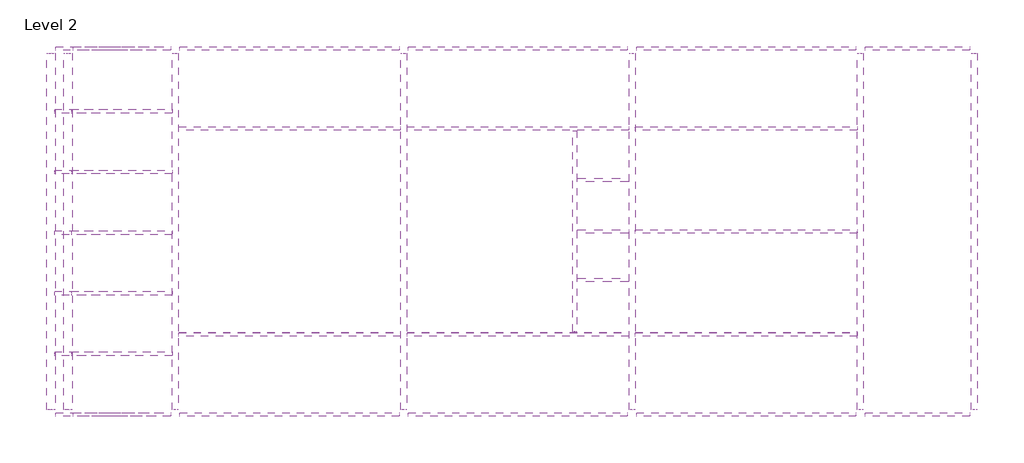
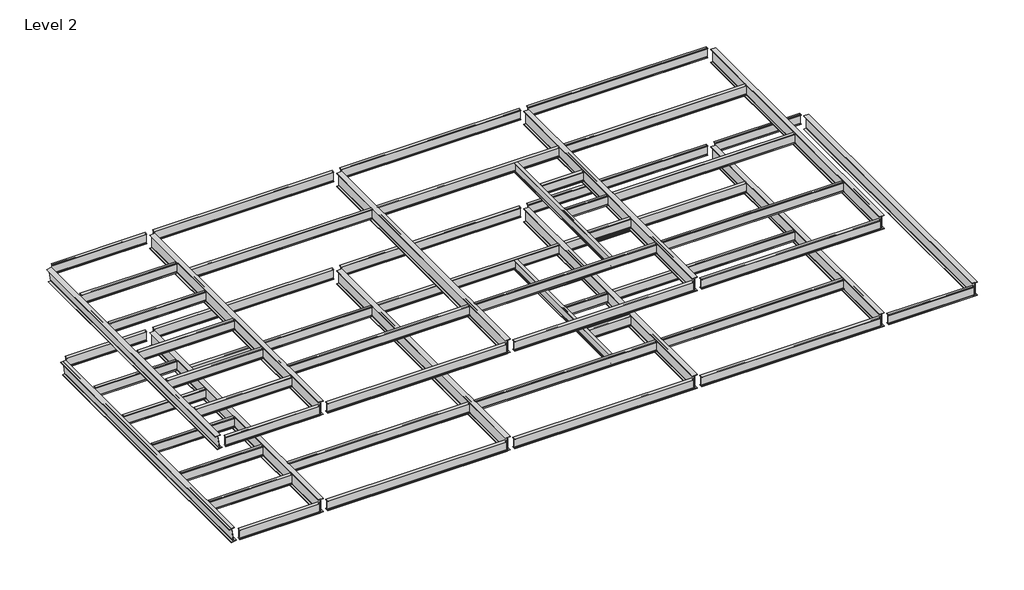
# One storey: 61 beams.
"""IFC4 building model written with IfcOpenShell, lengths in millimetres."""

from ifc_helpers import new_model, si_unit, origin, place, context, project, spatial, transform, mapped, element, save
from components import w_shapes_w21x57_a7133147, w_shapes_w21x57_78d4a217, w_shapes_w21x57_31511be1, w_shapes_w21x57_3eaecdaa, w_shapes_w21x57_65fae525, w_shapes_w21x57_e88e118e, w_shapes_w21x57_d6fd00a5, w_shapes_w21x57_f6bd02bd, w_shapes_w21x57_6fd070a8, w_shapes_w21x57_88b95638, w_shapes_w21x57_2a2f9a4d, w_shapes_w21x57_af6b2263, w_shapes_w21x57_8ccef679, w_shapes_w30x124_4285aa25, w_shapes_w30x124_25779b7b

model = new_model("IFC4")

# Units and contexts
model_context = context("Model", 3, world=origin())
ifc_project = project(units=[si_unit("LENGTHUNIT", "METRE", prefix="MILLI")], contexts=[model_context])

# Site, building, storey
site = spatial("IfcSite", under=ifc_project)
building = spatial("IfcBuilding", under=site)
storey = spatial("IfcBuildingStorey", under=building, Name="Level 2", Elevation=3000.0)

# Beams
placement = place(None, origin())
w_shapes_w21x57_shape = w_shapes_w21x57_a7133147(model_context)
element("IfcBeam", 1, ObjectType="W Shapes : W21X57", at=placement, inside=storey, context=model_context, shape_type="MappedRepresentation", body=[
    mapped(w_shapes_w21x57_shape, transform((39072.7, -14635.0, 5232.03), x_axis=(-1.0, 0.0, 0.0), y_axis=(0.0, -1.0, 0.0), z_axis=(0.0, 0.0, 1.0))),
])
element("IfcBeam", 2, ObjectType="W Shapes : W21X57", at=placement, inside=storey, context=model_context, shape_type="MappedRepresentation", body=[
    mapped(w_shapes_w21x57_shape, transform((39072.7, 1365.0, 5232.03), x_axis=(1.0, 0.0, 0.0), y_axis=(0.0, 1.0, 0.0), z_axis=(0.0, 0.0, 1.0))),
])
w_shapes_w21x57_2_shape = w_shapes_w21x57_78d4a217(model_context)
element("IfcBeam", 3, ObjectType="W Shapes : W21X57", at=placement, inside=storey, context=model_context, shape_type="MappedRepresentation", body=[
    mapped(w_shapes_w21x57_2_shape, transform((4197.5, -9335.0, 5232.03), x_axis=(1.0, 0.0, 0.0), y_axis=(0.0, 1.0, 0.0), z_axis=(0.0, 0.0, 1.0))),
])
element("IfcBeam", 4, ObjectType="W Shapes : W21X57", at=placement, inside=storey, context=model_context, shape_type="MappedRepresentation", body=[
    mapped(w_shapes_w21x57_2_shape, transform((4197.5, -6685.0, 5232.03), x_axis=(1.0, 0.0, 0.0), y_axis=(0.0, 1.0, 0.0), z_axis=(0.0, 0.0, 1.0))),
])
element("IfcBeam", 5, ObjectType="W Shapes : W21X57", at=placement, inside=storey, context=model_context, shape_type="MappedRepresentation", body=[
    mapped(w_shapes_w21x57_2_shape, transform((4197.5, -4035.0, 5232.03), x_axis=(1.0, 0.0, 0.0), y_axis=(0.0, 1.0, 0.0), z_axis=(0.0, 0.0, 1.0))),
])
element("IfcBeam", 6, ObjectType="W Shapes : W21X57", at=placement, inside=storey, context=model_context, shape_type="MappedRepresentation", body=[
    mapped(w_shapes_w21x57_2_shape, transform((4197.5, -1385.0, 5232.03), x_axis=(1.0, 0.0, 0.0), y_axis=(0.0, 1.0, 0.0), z_axis=(0.0, 0.0, 1.0))),
])
element("IfcBeam", 7, ObjectType="W Shapes : W21X57", at=placement, inside=storey, context=model_context, shape_type="MappedRepresentation", body=[
    mapped(w_shapes_w21x57_2_shape, transform((4197.5, -11985.0, 5232.03), x_axis=(1.0, 0.0, 0.0), y_axis=(0.0, 1.0, 0.0), z_axis=(0.0, 0.0, 1.0))),
])
w_shapes_w21x57_3_shape = w_shapes_w21x57_31511be1(model_context)
element("IfcBeam", 8, ObjectType="W Shapes : W21X57", at=placement, inside=storey, context=model_context, shape_type="MappedRepresentation", body=[
    mapped(w_shapes_w21x57_3_shape, transform((24099.4, -6572.5, 10732.03), x_axis=(0.0, -1.0, 0.0), y_axis=(1.0, 0.0, 0.0), z_axis=(0.0, 0.0, 1.0))),
])
element("IfcBeam", 9, ObjectType="W Shapes : W21X57", at=placement, inside=storey, context=model_context, shape_type="MappedRepresentation", body=[
    mapped(w_shapes_w21x57_3_shape, transform((24099.4, -6572.5, 5232.03), x_axis=(0.0, -1.0, 0.0), y_axis=(1.0, 0.0, 0.0), z_axis=(0.0, 0.0, 1.0))),
])
w_shapes_w21x57_4_shape = w_shapes_w21x57_3eaecdaa(model_context)
element("IfcBeam", 10, ObjectType="W Shapes : W21X57", at=placement, inside=storey, context=model_context, shape_type="MappedRepresentation", body=[
    mapped(w_shapes_w21x57_4_shape, transform((31590.5, -11135.0, 5232.03), x_axis=(-1.0, 0.0, 0.0), y_axis=(0.0, -1.0, 0.0), z_axis=(0.0, 0.0, 1.0))),
])
element("IfcBeam", 11, ObjectType="W Shapes : W21X57", at=placement, inside=storey, context=model_context, shape_type="MappedRepresentation", body=[
    mapped(w_shapes_w21x57_4_shape, transform((21608.3, -11135.0, 5232.03), x_axis=(-1.0, 0.0, 0.0), y_axis=(0.0, -1.0, 0.0), z_axis=(0.0, 0.0, 1.0))),
])
element("IfcBeam", 12, ObjectType="W Shapes : W21X57", at=placement, inside=storey, context=model_context, shape_type="MappedRepresentation", body=[
    mapped(w_shapes_w21x57_4_shape, transform((31590.5, -2135.0, 5232.03), x_axis=(-1.0, 0.0, 0.0), y_axis=(0.0, -1.0, 0.0), z_axis=(0.0, 0.0, 1.0))),
])
element("IfcBeam", 13, ObjectType="W Shapes : W21X57", at=placement, inside=storey, context=model_context, shape_type="MappedRepresentation", body=[
    mapped(w_shapes_w21x57_4_shape, transform((21608.3, -2135.0, 5232.03), x_axis=(-1.0, 0.0, 0.0), y_axis=(0.0, -1.0, 0.0), z_axis=(0.0, 0.0, 1.0))),
])
element("IfcBeam", 14, ObjectType="W Shapes : W21X57", at=placement, inside=storey, context=model_context, shape_type="MappedRepresentation", body=[
    mapped(w_shapes_w21x57_4_shape, transform((31590.5, -2135.0, 10732.03), x_axis=(-1.0, 0.0, 0.0), y_axis=(0.0, -1.0, 0.0), z_axis=(0.0, 0.0, 1.0))),
])
element("IfcBeam", 15, ObjectType="W Shapes : W21X57", at=placement, inside=storey, context=model_context, shape_type="MappedRepresentation", body=[
    mapped(w_shapes_w21x57_4_shape, transform((21608.3, -2135.0, 10732.03), x_axis=(-1.0, 0.0, 0.0), y_axis=(0.0, -1.0, 0.0), z_axis=(0.0, 0.0, 1.0))),
])
element("IfcBeam", 16, ObjectType="W Shapes : W21X57", at=placement, inside=storey, context=model_context, shape_type="MappedRepresentation", body=[
    mapped(w_shapes_w21x57_4_shape, transform((31590.5, -11135.0, 10732.03), x_axis=(-1.0, 0.0, 0.0), y_axis=(0.0, -1.0, 0.0), z_axis=(0.0, 0.0, 1.0))),
])
element("IfcBeam", 17, ObjectType="W Shapes : W21X57", at=placement, inside=storey, context=model_context, shape_type="MappedRepresentation", body=[
    mapped(w_shapes_w21x57_4_shape, transform((21608.3, -11135.0, 10732.03), x_axis=(-1.0, 0.0, 0.0), y_axis=(0.0, -1.0, 0.0), z_axis=(0.0, 0.0, 1.0))),
])
w_shapes_w21x57_5_shape = w_shapes_w21x57_65fae525(model_context)
element("IfcBeam", 18, ObjectType="W Shapes : W21X57", at=placement, inside=storey, context=model_context, shape_type="MappedRepresentation", body=[
    mapped(w_shapes_w21x57_5_shape, transform((25286.9, -4385.0, 10732.03), x_axis=(1.0, 0.0, 0.0), y_axis=(0.0, 1.0, 0.0), z_axis=(0.0, 0.0, 1.0))),
])
element("IfcBeam", 19, ObjectType="W Shapes : W21X57", at=placement, inside=storey, context=model_context, shape_type="MappedRepresentation", body=[
    mapped(w_shapes_w21x57_5_shape, transform((25286.9, -8760.0, 10732.03), x_axis=(1.0, 0.0, 0.0), y_axis=(0.0, 1.0, 0.0), z_axis=(0.0, 0.0, 1.0))),
])
element("IfcBeam", 20, ObjectType="W Shapes : W21X57", at=placement, inside=storey, context=model_context, shape_type="MappedRepresentation", body=[
    mapped(w_shapes_w21x57_5_shape, transform((25286.9, -4385.0, 5232.03), x_axis=(1.0, 0.0, 0.0), y_axis=(0.0, 1.0, 0.0), z_axis=(0.0, 0.0, 1.0))),
])
element("IfcBeam", 21, ObjectType="W Shapes : W21X57", at=placement, inside=storey, context=model_context, shape_type="MappedRepresentation", body=[
    mapped(w_shapes_w21x57_5_shape, transform((25286.9, -8760.0, 5232.03), x_axis=(1.0, 0.0, 0.0), y_axis=(0.0, 1.0, 0.0), z_axis=(0.0, 0.0, 1.0))),
])
w_shapes_w21x57_6_shape = w_shapes_w21x57_e88e118e(model_context)
element("IfcBeam", 22, ObjectType="W Shapes : W21X57", at=placement, inside=storey, context=model_context, shape_type="MappedRepresentation", body=[
    mapped(w_shapes_w21x57_6_shape, transform((3822.5, -11985.0, 10732.03), x_axis=(1.0, 0.0, 0.0), y_axis=(0.0, 1.0, 0.0), z_axis=(0.0, 0.0, 1.0))),
])
element("IfcBeam", 23, ObjectType="W Shapes : W21X57", at=placement, inside=storey, context=model_context, shape_type="MappedRepresentation", body=[
    mapped(w_shapes_w21x57_6_shape, transform((3822.5, -9335.0, 10732.03), x_axis=(1.0, 0.0, 0.0), y_axis=(0.0, 1.0, 0.0), z_axis=(0.0, 0.0, 1.0))),
])
element("IfcBeam", 24, ObjectType="W Shapes : W21X57", at=placement, inside=storey, context=model_context, shape_type="MappedRepresentation", body=[
    mapped(w_shapes_w21x57_6_shape, transform((3822.5, -6685.0, 10732.03), x_axis=(1.0, 0.0, 0.0), y_axis=(0.0, 1.0, 0.0), z_axis=(0.0, 0.0, 1.0))),
])
element("IfcBeam", 25, ObjectType="W Shapes : W21X57", at=placement, inside=storey, context=model_context, shape_type="MappedRepresentation", body=[
    mapped(w_shapes_w21x57_6_shape, transform((3822.5, -4035.0, 10732.03), x_axis=(1.0, 0.0, 0.0), y_axis=(0.0, 1.0, 0.0), z_axis=(0.0, 0.0, 1.0))),
])
element("IfcBeam", 26, ObjectType="W Shapes : W21X57", at=placement, inside=storey, context=model_context, shape_type="MappedRepresentation", body=[
    mapped(w_shapes_w21x57_6_shape, transform((3822.5, -1385.0, 10732.03), x_axis=(1.0, 0.0, 0.0), y_axis=(0.0, 1.0, 0.0), z_axis=(0.0, 0.0, 1.0))),
])
w_shapes_w21x57_7_shape = w_shapes_w21x57_d6fd00a5(model_context)
element("IfcBeam", 27, ObjectType="W Shapes : W21X57", at=placement, inside=storey, context=model_context, shape_type="MappedRepresentation", body=[
    mapped(w_shapes_w21x57_7_shape, transform((21608.3, -14635.0, 5232.03), x_axis=(-1.0, 0.0, 0.0), y_axis=(0.0, -1.0, 0.0), z_axis=(0.0, 0.0, 1.0))),
])
element("IfcBeam", 28, ObjectType="W Shapes : W21X57", at=placement, inside=storey, context=model_context, shape_type="MappedRepresentation", body=[
    mapped(w_shapes_w21x57_7_shape, transform((11626.1, -14635.0, 5232.03), x_axis=(-1.0, 0.0, 0.0), y_axis=(0.0, -1.0, 0.0), z_axis=(0.0, 0.0, 1.0))),
])
element("IfcBeam", 29, ObjectType="W Shapes : W21X57", at=placement, inside=storey, context=model_context, shape_type="MappedRepresentation", body=[
    mapped(w_shapes_w21x57_7_shape, transform((11626.1, 1365.0, 5232.03), x_axis=(1.0, 0.0, 0.0), y_axis=(0.0, 1.0, 0.0), z_axis=(0.0, 0.0, 1.0))),
])
element("IfcBeam", 30, ObjectType="W Shapes : W21X57", at=placement, inside=storey, context=model_context, shape_type="MappedRepresentation", body=[
    mapped(w_shapes_w21x57_7_shape, transform((21608.3, 1365.0, 5232.03), x_axis=(1.0, 0.0, 0.0), y_axis=(0.0, 1.0, 0.0), z_axis=(0.0, 0.0, 1.0))),
])
element("IfcBeam", 31, ObjectType="W Shapes : W21X57", at=placement, inside=storey, context=model_context, shape_type="MappedRepresentation", body=[
    mapped(w_shapes_w21x57_7_shape, transform((31590.5, 1365.0, 5232.03), x_axis=(1.0, 0.0, 0.0), y_axis=(0.0, 1.0, 0.0), z_axis=(0.0, 0.0, 1.0))),
])
element("IfcBeam", 32, ObjectType="W Shapes : W21X57", at=placement, inside=storey, context=model_context, shape_type="MappedRepresentation", body=[
    mapped(w_shapes_w21x57_7_shape, transform((31590.5, -14635.0, 10732.03), x_axis=(-1.0, 0.0, 0.0), y_axis=(0.0, -1.0, 0.0), z_axis=(0.0, 0.0, 1.0))),
])
element("IfcBeam", 33, ObjectType="W Shapes : W21X57", at=placement, inside=storey, context=model_context, shape_type="MappedRepresentation", body=[
    mapped(w_shapes_w21x57_7_shape, transform((21608.3, -14635.0, 10732.03), x_axis=(-1.0, 0.0, 0.0), y_axis=(0.0, -1.0, 0.0), z_axis=(0.0, 0.0, 1.0))),
])
element("IfcBeam", 34, ObjectType="W Shapes : W21X57", at=placement, inside=storey, context=model_context, shape_type="MappedRepresentation", body=[
    mapped(w_shapes_w21x57_7_shape, transform((11626.1, -14635.0, 10732.03), x_axis=(-1.0, 0.0, 0.0), y_axis=(0.0, -1.0, 0.0), z_axis=(0.0, 0.0, 1.0))),
])
element("IfcBeam", 35, ObjectType="W Shapes : W21X57", at=placement, inside=storey, context=model_context, shape_type="MappedRepresentation", body=[
    mapped(w_shapes_w21x57_7_shape, transform((11626.1, 1365.0, 10732.03), x_axis=(1.0, 0.0, 0.0), y_axis=(0.0, 1.0, 0.0), z_axis=(0.0, 0.0, 1.0))),
])
element("IfcBeam", 36, ObjectType="W Shapes : W21X57", at=placement, inside=storey, context=model_context, shape_type="MappedRepresentation", body=[
    mapped(w_shapes_w21x57_7_shape, transform((21608.3, 1365.0, 10732.03), x_axis=(1.0, 0.0, 0.0), y_axis=(0.0, 1.0, 0.0), z_axis=(0.0, 0.0, 1.0))),
])
element("IfcBeam", 37, ObjectType="W Shapes : W21X57", at=placement, inside=storey, context=model_context, shape_type="MappedRepresentation", body=[
    mapped(w_shapes_w21x57_7_shape, transform((31590.5, 1365.0, 10732.03), x_axis=(1.0, 0.0, 0.0), y_axis=(0.0, 1.0, 0.0), z_axis=(0.0, 0.0, 1.0))),
])
element("IfcBeam", 38, ObjectType="W Shapes : W21X57", at=placement, inside=storey, context=model_context, shape_type="MappedRepresentation", body=[
    mapped(w_shapes_w21x57_7_shape, transform((31590.5, -14635.0, 5232.03), x_axis=(-1.0, 0.0, 0.0), y_axis=(0.0, -1.0, 0.0), z_axis=(0.0, 0.0, 1.0))),
])
w_shapes_w21x57_8_shape = w_shapes_w21x57_f6bd02bd(model_context)
element("IfcBeam", 39, ObjectType="W Shapes : W21X57", at=placement, inside=storey, context=model_context, shape_type="MappedRepresentation", body=[
    mapped(w_shapes_w21x57_8_shape, transform((4260.0, -14635.0, 5232.03), x_axis=(-1.0, 0.0, 0.0), y_axis=(0.0, -1.0, 0.0), z_axis=(0.0, 0.0, 1.0))),
])
w_shapes_w21x57_9_shape = w_shapes_w21x57_6fd070a8(model_context)
element("IfcBeam", 40, ObjectType="W Shapes : W21X57", at=placement, inside=storey, context=model_context, shape_type="MappedRepresentation", body=[
    mapped(w_shapes_w21x57_9_shape, transform((4260.0, 1365.0, 5232.03), x_axis=(1.0, 0.0, 0.0), y_axis=(0.0, 1.0, 0.0), z_axis=(0.0, 0.0, 1.0))),
])
w_shapes_w21x57_10_shape = w_shapes_w21x57_88b95638(model_context)
element("IfcBeam", 41, ObjectType="W Shapes : W21X57", at=placement, inside=storey, context=model_context, shape_type="MappedRepresentation", body=[
    mapped(w_shapes_w21x57_10_shape, transform((3885.0, -14635.0, 10732.03), x_axis=(-1.0, 0.0, 0.0), y_axis=(0.0, -1.0, 0.0), z_axis=(0.0, 0.0, 1.0))),
])
w_shapes_w21x57_11_shape = w_shapes_w21x57_2a2f9a4d(model_context)
element("IfcBeam", 42, ObjectType="W Shapes : W21X57", at=placement, inside=storey, context=model_context, shape_type="MappedRepresentation", body=[
    mapped(w_shapes_w21x57_11_shape, transform((3885.0, 1365.0, 10732.03), x_axis=(1.0, 0.0, 0.0), y_axis=(0.0, 1.0, 0.0), z_axis=(0.0, 0.0, 1.0))),
])
w_shapes_w21x57_12_shape = w_shapes_w21x57_af6b2263(model_context)
element("IfcBeam", 43, ObjectType="W Shapes : W21X57", at=placement, inside=storey, context=model_context, shape_type="MappedRepresentation", body=[
    mapped(w_shapes_w21x57_12_shape, transform((11688.6, -11135.0, 5232.03), x_axis=(-1.0, 0.0, 0.0), y_axis=(0.0, -1.0, 0.0), z_axis=(0.0, 0.0, 1.0))),
])
element("IfcBeam", 44, ObjectType="W Shapes : W21X57", at=placement, inside=storey, context=model_context, shape_type="MappedRepresentation", body=[
    mapped(w_shapes_w21x57_12_shape, transform((11688.6, -2135.0, 5232.03), x_axis=(-1.0, 0.0, 0.0), y_axis=(0.0, -1.0, 0.0), z_axis=(0.0, 0.0, 1.0))),
])
element("IfcBeam", 45, ObjectType="W Shapes : W21X57", at=placement, inside=storey, context=model_context, shape_type="MappedRepresentation", body=[
    mapped(w_shapes_w21x57_12_shape, transform((11688.6, -2135.0, 10732.03), x_axis=(-1.0, 0.0, 0.0), y_axis=(0.0, -1.0, 0.0), z_axis=(0.0, 0.0, 1.0))),
])
element("IfcBeam", 46, ObjectType="W Shapes : W21X57", at=placement, inside=storey, context=model_context, shape_type="MappedRepresentation", body=[
    mapped(w_shapes_w21x57_12_shape, transform((11688.6, -11135.0, 10732.03), x_axis=(-1.0, 0.0, 0.0), y_axis=(0.0, -1.0, 0.0), z_axis=(0.0, 0.0, 1.0))),
])
element("IfcBeam", 47, ObjectType="W Shapes : W21X57", at=placement, inside=storey, context=model_context, shape_type="MappedRepresentation", body=[
    mapped(w_shapes_w21x57_12_shape, transform((31528.0, -6635.0, 10732.03), x_axis=(1.0, 0.0, 0.0), y_axis=(0.0, 1.0, 0.0), z_axis=(0.0, 0.0, 1.0))),
])
element("IfcBeam", 48, ObjectType="W Shapes : W21X57", at=placement, inside=storey, context=model_context, shape_type="MappedRepresentation", body=[
    mapped(w_shapes_w21x57_12_shape, transform((31528.0, -6635.0, 5232.03), x_axis=(1.0, 0.0, 0.0), y_axis=(0.0, 1.0, 0.0), z_axis=(0.0, 0.0, 1.0))),
])
w_shapes_w21x57_13_shape = w_shapes_w21x57_8ccef679(model_context)
element("IfcBeam", 49, ObjectType="W Shapes : W21X57", at=placement, inside=storey, context=model_context, shape_type="MappedRepresentation", body=[
    mapped(w_shapes_w21x57_13_shape, transform((25349.4, -6635.0, 10732.03), x_axis=(1.0, 0.0, 0.0), y_axis=(0.0, 1.0, 0.0), z_axis=(0.0, 0.0, 1.0))),
])
element("IfcBeam", 50, ObjectType="W Shapes : W21X57", at=placement, inside=storey, context=model_context, shape_type="MappedRepresentation", body=[
    mapped(w_shapes_w21x57_13_shape, transform((25349.4, -6635.0, 5232.03), x_axis=(1.0, 0.0, 0.0), y_axis=(0.0, 1.0, 0.0), z_axis=(0.0, 0.0, 1.0))),
])
w_shapes_w30x124_shape = w_shapes_w30x124_4285aa25(model_context)
element("IfcBeam", 51, ObjectType="W Shapes : W30X124", at=placement, inside=storey, context=model_context, shape_type="MappedRepresentation", body=[
    mapped(w_shapes_w30x124_shape, transform((16617.2, -6635.0, 5116.46), x_axis=(0.0, 1.0, 0.0), y_axis=(-1.0, 0.0, 0.0), z_axis=(0.0, 0.0, 1.0))),
])
element("IfcBeam", 52, ObjectType="W Shapes : W30X124", at=placement, inside=storey, context=model_context, shape_type="MappedRepresentation", body=[
    mapped(w_shapes_w30x124_shape, transform((26599.4, -6635.0, 5116.46), x_axis=(0.0, 1.0, 0.0), y_axis=(-1.0, 0.0, 0.0), z_axis=(0.0, 0.0, 1.0))),
])
element("IfcBeam", 53, ObjectType="W Shapes : W30X124", at=placement, inside=storey, context=model_context, shape_type="MappedRepresentation", body=[
    mapped(w_shapes_w30x124_shape, transform((36581.6, -6635.0, 10616.46), x_axis=(0.0, -1.0, 0.0), y_axis=(1.0, 0.0, 0.0), z_axis=(0.0, 0.0, 1.0))),
])
element("IfcBeam", 54, ObjectType="W Shapes : W30X124", at=placement, inside=storey, context=model_context, shape_type="MappedRepresentation", body=[
    mapped(w_shapes_w30x124_shape, transform((6635.0, -6635.0, 10616.46), x_axis=(0.0, 1.0, 0.0), y_axis=(-1.0, 0.0, 0.0), z_axis=(0.0, 0.0, 1.0))),
])
element("IfcBeam", 55, ObjectType="W Shapes : W30X124", at=placement, inside=storey, context=model_context, shape_type="MappedRepresentation", body=[
    mapped(w_shapes_w30x124_shape, transform((16617.2, -6635.0, 10616.46), x_axis=(0.0, 1.0, 0.0), y_axis=(-1.0, 0.0, 0.0), z_axis=(0.0, 0.0, 1.0))),
])
element("IfcBeam", 56, ObjectType="W Shapes : W30X124", at=placement, inside=storey, context=model_context, shape_type="MappedRepresentation", body=[
    mapped(w_shapes_w30x124_shape, transform((26599.4, -6635.0, 10616.46), x_axis=(0.0, 1.0, 0.0), y_axis=(-1.0, 0.0, 0.0), z_axis=(0.0, 0.0, 1.0))),
])
element("IfcBeam", 57, ObjectType="W Shapes : W30X124", at=placement, inside=storey, context=model_context, shape_type="MappedRepresentation", body=[
    mapped(w_shapes_w30x124_shape, transform((41563.8, -6635.0, 5116.46), x_axis=(0.0, -1.0, 0.0), y_axis=(1.0, 0.0, 0.0), z_axis=(0.0, 0.0, 1.0))),
])
element("IfcBeam", 58, ObjectType="W Shapes : W30X124", at=placement, inside=storey, context=model_context, shape_type="MappedRepresentation", body=[
    mapped(w_shapes_w30x124_shape, transform((36581.6, -6635.0, 5116.46), x_axis=(0.0, -1.0, 0.0), y_axis=(1.0, 0.0, 0.0), z_axis=(0.0, 0.0, 1.0))),
])
element("IfcBeam", 59, ObjectType="W Shapes : W30X124", at=placement, inside=storey, context=model_context, shape_type="MappedRepresentation", body=[
    mapped(w_shapes_w30x124_shape, transform((6635.0, -6635.0, 5116.46), x_axis=(0.0, 1.0, 0.0), y_axis=(-1.0, 0.0, 0.0), z_axis=(0.0, 0.0, 1.0))),
])
w_shapes_w30x124_2_shape = w_shapes_w30x124_25779b7b(model_context)
element("IfcBeam", 60, ObjectType="W Shapes : W30X124", at=placement, inside=storey, context=model_context, shape_type="MappedRepresentation", body=[
    mapped(w_shapes_w30x124_2_shape, transform((1188.3684469, -6635.0, 10620.191179), x_axis=(0.0, 1.0000000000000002, 0.0), y_axis=(-0.9902717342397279, 0.0, -0.13914701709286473), z_axis=(-0.13914701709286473, 0.0, 0.9902717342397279))),
])
element("IfcBeam", 61, ObjectType="W Shapes : W30X124", at=placement, inside=storey, context=model_context, shape_type="MappedRepresentation", body=[
    mapped(w_shapes_w30x124_2_shape, transform((1938.3684469, -6635.0, 5120.191179), x_axis=(0.0, 1.0000000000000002, 0.0), y_axis=(-0.9902717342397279, 0.0, -0.13914701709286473), z_axis=(-0.13914701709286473, 0.0, 0.9902717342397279))),
])

save(model, "model.ifc")
